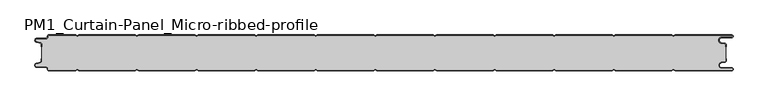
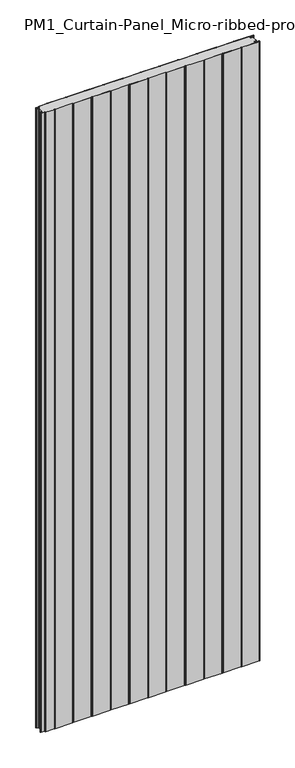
"""IFC4 building model written with IfcOpenShell, lengths in millimetres: plate geometry, PM1_Curtain-Panel_Micro-ribbed-profile : ACH_PM1_Stone-wool-Panel_60M."""

import ifcopenshell
import ifcopenshell.guid

model = None  # the IFC model being written
_history = None  # IfcOwnerHistory: only IFC2X3 demands one
_inside = {}  # id of a spatial element -> (the spatial element, [elements in it])
_under = {}  # id of a project, library or spatial element -> (it, [spatial elements below it])
_declared = {}  # id of a project -> (the project, [libraries it declares])
_typed = {}  # id of a type object -> (the type object, [elements of that type])
_made_of = {}  # id of a material, layer set ... -> (it, [elements and type objects made of it])


def new_model(schema):
    """Start an empty IFC model of exactly this schema.

    Asked for "IFC4X3", IfcOpenShell would pick the latest addendum, in which some entities
    have other attributes; the version numbers below select the first issue.
    IFC2X3 requires an IfcOwnerHistory on every rooted entity: one is made here for all.
    """
    global model, _history
    if schema == "IFC4X3":
        model = ifcopenshell.file(schema_version=(4, 3, 0, 0))
    else:
        model = ifcopenshell.file(schema=schema)
    _inside.clear()
    _under.clear()
    _declared.clear()
    _typed.clear()
    _made_of.clear()
    _history = None
    if model.schema == "IFC2X3":
        org = make("IfcOrganization", Name="unknown")
        user = make(
            "IfcPersonAndOrganization",
            ThePerson=make("IfcPerson", FamilyName="unknown"),
            TheOrganization=org,
        )
        app = make(
            "IfcApplication",
            ApplicationDeveloper=org,
            Version="unknown",
            ApplicationFullName="unknown",
            ApplicationIdentifier="unknown",
        )
        _history = make(
            "IfcOwnerHistory",
            OwningUser=user,
            OwningApplication=app,
            ChangeAction="ADDED",
            CreationDate=0,
        )
    return model


def make(cls, **values):
    """One entity of the class cls with the attributes given. An attribute that is None is left unset."""
    return model.create_entity(
        cls, **{name: value for name, value in values.items() if value is not None}
    )


def rooted(cls, **values):
    """An entity with a GlobalId (a new one), such as an element, a storey or a relation."""
    return make(cls, GlobalId=ifcopenshell.guid.new(), OwnerHistory=_history, **values)


def si_unit(unit_type, name, prefix=None):
    """IfcSIUnit, for example si_unit("LENGTHUNIT", "METRE", prefix="MILLI")."""
    return make("IfcSIUnit", UnitType=unit_type, Prefix=prefix, Name=name)


def assignment(units):
    """IfcUnitAssignment: the units of a project."""
    return None if units is None else make("IfcUnitAssignment", Units=units)


def point(xyz):
    """IfcCartesianPoint."""
    return None if xyz is None else make("IfcCartesianPoint", Coordinates=xyz)


def direction(xyz):
    """IfcDirection."""
    return None if xyz is None else make("IfcDirection", DirectionRatios=xyz)


def frame(location, z_axis=None, x_axis=None):
    """IfcAxis2Placement3D, a coordinate frame: its origin and axes. An axis left out is left unset."""
    return make(
        "IfcAxis2Placement3D",
        Location=point(location),
        Axis=direction(z_axis),
        RefDirection=direction(x_axis),
    )


def frame_2d(location, x_axis=None):
    """IfcAxis2Placement2D, a coordinate frame in the plane: its origin and x axis."""
    return make(
        "IfcAxis2Placement2D", Location=point(location), RefDirection=direction(x_axis)
    )


def origin():
    """The frame at (0, 0, 0) with its axes left unset."""
    return frame((0.0, 0.0, 0.0))


def origin_with_axes():
    """The frame at (0, 0, 0) with the z axis (0, 0, 1) and the x axis (1, 0, 0) written out."""
    return frame((0.0, 0.0, 0.0), z_axis=(0.0, 0.0, 1.0), x_axis=(1.0, 0.0, 0.0))


def place(relative_to, where):
    """IfcLocalPlacement: puts the frame where relative to a parent placement (None: the world)."""
    return make(
        "IfcLocalPlacement", PlacementRelTo=relative_to, RelativePlacement=where
    )


def context(
    kind, dimensions, precision=None, world=None, true_north=None, identifier=None
):
    """IfcGeometricRepresentationContext, for example the 3D "Model" context."""
    return make(
        "IfcGeometricRepresentationContext",
        ContextIdentifier=identifier,
        ContextType=kind,
        CoordinateSpaceDimension=dimensions,
        Precision=precision,
        WorldCoordinateSystem=world,
        TrueNorth=true_north,
    )


def project(units=None, contexts=None):
    """IfcProject with its units and contexts."""
    return rooted(
        "IfcProject",
        Name="project",
        RepresentationContexts=contexts,
        UnitsInContext=assignment(units),
    )


def spatial(cls, under=None, at=None, **own):
    """A site, building, storey or space (cls), placed at a placement, below another one or the project."""
    s = rooted(cls, ObjectPlacement=at, **own)
    if under is not None:
        _under.setdefault(under.id(), (under, []))[1].append(s)
    return s


def polyline(points):
    """IfcPolyline through the points."""
    return make("IfcPolyline", Points=[point(p) for p in points])


def circle_curve(where, radius):
    """IfcCircle in the frame where."""
    return make("IfcCircle", Position=where, Radius=radius)


def trimmed(basis, trim1, trim2, sense, master):
    """IfcTrimmedCurve: the piece of a basis curve between two trims."""
    return make(
        "IfcTrimmedCurve",
        BasisCurve=basis,
        Trim1=trim1,
        Trim2=trim2,
        SenseAgreement=sense,
        MasterRepresentation=master,
    )


def segment(curve, same_sense, transition):
    """IfcCompositeCurveSegment."""
    return make(
        "IfcCompositeCurveSegment",
        Transition=transition,
        SameSense=same_sense,
        ParentCurve=curve,
    )


def composite_curve(segments, self_intersect=None):
    """IfcCompositeCurve: segments joined end to end."""
    return make("IfcCompositeCurve", Segments=segments, SelfIntersect=self_intersect)


def outline(outer, holes=None, kind="AREA"):
    """IfcArbitraryClosedProfileDef: a profile drawn as a closed curve; with holes, ...WithVoids."""
    if holes is None:
        return make("IfcArbitraryClosedProfileDef", ProfileType=kind, OuterCurve=outer)
    return make(
        "IfcArbitraryProfileDefWithVoids",
        ProfileType=kind,
        OuterCurve=outer,
        InnerCurves=holes,
    )


def extrude(swept, where, along, depth):
    """IfcExtrudedAreaSolid: the profile swept, set in the frame where, extruded along a direction by depth."""
    return make(
        "IfcExtrudedAreaSolid",
        SweptArea=swept,
        Position=where,
        ExtrudedDirection=direction(along),
        Depth=depth,
    )


def shape(context_of_items, identifier, shape_type, items):
    """IfcShapeRepresentation: the items that make up one representation, for example the "Body"."""
    return make(
        "IfcShapeRepresentation",
        ContextOfItems=context_of_items,
        RepresentationIdentifier=identifier,
        RepresentationType=shape_type,
        Items=items,
    )


def source(mapping_origin, context_of_items, identifier, shape_type, items):
    """IfcRepresentationMap: a shape defined once, which mapped items show again and again."""
    return make(
        "IfcRepresentationMap",
        MappingOrigin=mapping_origin,
        MappedRepresentation=shape(context_of_items, identifier, shape_type, items),
    )


def transform(
    local_origin,
    x_axis=None,
    y_axis=None,
    z_axis=None,
    scale=None,
    scale2=None,
    scale3=None,
    uniform=True,
):
    """IfcCartesianTransformationOperator3D, or its non-uniform kind. x_axis, y_axis, z_axis: its Axis1, 2, 3."""
    if uniform:
        return make(
            "IfcCartesianTransformationOperator3D",
            Axis1=direction(x_axis),
            Axis2=direction(y_axis),
            LocalOrigin=point(local_origin),
            Scale=scale,
            Axis3=direction(z_axis),
        )
    return make(
        "IfcCartesianTransformationOperator3DnonUniform",
        Axis1=direction(x_axis),
        Axis2=direction(y_axis),
        LocalOrigin=point(local_origin),
        Scale=scale,
        Axis3=direction(z_axis),
        Scale2=scale2,
        Scale3=scale3,
    )


def mapped(mapping_source, mapping_target):
    """IfcMappedItem: shows the shape of a source again, moved by a transform."""
    return make(
        "IfcMappedItem", MappingSource=mapping_source, MappingTarget=mapping_target
    )


def made_of(thing, what):
    """Note that an element or type object is made of a material, layer set ...; save() writes the relation."""
    if what is not None:
        _made_of.setdefault(what.id(), (what, []))[1].append(thing)
    return thing


def element(
    cls,
    number,
    at=None,
    inside=None,
    cuts=None,
    type_object=None,
    material=None,
    context=None,
    identifier="Body",
    shape_type=None,
    held_by="IfcProductDefinitionShape",
    body=None,
    shapes=None,
    **own,
):
    """One element of the class cls, such as IfcWall. Its Tag is "e" and its number.

    at: its placement. inside: the storey or other place that contains it. cuts: it is an
    opening in that element (IfcRelVoidsElement). A single representation is given by context,
    identifier, shape_type and body (its items); several are given by shapes. held_by: the class
    of the entity that holds the representations. save() writes the other relations.
    """
    e = rooted(cls, Tag="e%d" % number, ObjectPlacement=at, **own)
    if body is not None:
        shapes = [shape(context, identifier, shape_type, body)]
    if shapes is not None:
        e.Representation = make(held_by, Representations=shapes)
    if inside is not None:
        _inside.setdefault(inside.id(), (inside, []))[1].append(e)
    if cuts is not None:
        rooted(
            "IfcRelVoidsElement", RelatingBuildingElement=cuts, RelatedOpeningElement=e
        )
    if type_object is not None:
        _typed.setdefault(type_object.id(), (type_object, []))[1].append(e)
    return made_of(e, material)


def aggregate(whole, parts):
    """IfcRelAggregates: a whole, such as a stair, and the parts it consists of."""
    return rooted("IfcRelAggregates", RelatingObject=whole, RelatedObjects=parts)


def save(model, path):
    """Write the relations noted so far, then the file.

    IfcRelAggregates (storeys below a building ...), IfcRelContainedInSpatialStructure (elements
    in a storey), IfcRelDefinesByType, IfcRelAssociatesMaterial and IfcRelDeclares: one each for
    every whole, place, type object, material and project.
    """
    for whole, parts in _under.values():
        aggregate(whole, parts)
    for where, things in _inside.values():
        rooted(
            "IfcRelContainedInSpatialStructure",
            RelatedElements=things,
            RelatingStructure=where,
        )
    for kind, things in _typed.values():
        rooted("IfcRelDefinesByType", RelatedObjects=things, RelatingType=kind)
    for what, things in _made_of.values():
        rooted("IfcRelAssociatesMaterial", RelatedObjects=things, RelatingMaterial=what)
    for by, libraries in _declared.values():
        rooted("IfcRelDeclares", RelatingContext=by, RelatedDefinitions=libraries)
    model.write(path)


def pm1_curtain_panel_micro_ribbed_profile_8efd6a00(model_context):
    return source(origin(), model_context, "Body", "SweptSolid", [
        extrude(outline(composite_curve([segment(trimmed(circle_curve(frame_2d((-577.0, -15.878557)), 2.0), [point((-575.0, -15.878557))], [point((-576.5500978, -13.9298169))], True, "CARTESIAN"), True, "CONTINUOUS"), segment(polyline([(-576.5500978, -13.9298169), (-582.7098239, -12.507732)]), True, "CONTINUOUS"), segment(trimmed(circle_curve(frame_2d((-581.9, -9.0)), 3.6), [point((-582.7098239, -12.507732))], [point((-581.9, -5.4))], False, "CARTESIAN"), True, "CONTINUOUS"), segment(polyline([(-581.9, -5.4), (-566.4, -5.4)]), True, "CONTINUOUS"), segment(trimmed(circle_curve(frame_2d((-566.4, -3.4)), 2.0), [point((-566.4, -5.4))], [point((-564.4, -3.4))], True, "CARTESIAN"), True, "CONTINUOUS"), segment(polyline([(-564.4, -3.4), (-564.4, -2.0)]), True, "CONTINUOUS"), segment(trimmed(circle_curve(frame_2d((-562.4, -2.0)), 2.0), [point((-564.4, -2.0))], [point((-562.4, 0.0))], False, "CARTESIAN"), True, "CONTINUOUS"), segment(polyline([(-562.4, 0.0), (-517.0999995, 0.0), (-514.4, -1.5588455), (-511.7000005, 0.0), (-417.0999995, 0.0), (-414.4, -1.5588455), (-411.7000005, 0.0), (-317.0999995, 0.0), (-314.4, -1.5588455), (-311.7000005, 0.0), (-217.0999995, 0.0), (-214.4, -1.5588455), (-211.7000005, 0.0), (-117.0999995, 0.0), (-114.4, -1.5588455), (-111.7000005, 0.0), (-17.0999995, 0.0), (-14.4, -1.5588455), (-11.7000005, 0.0), (82.9000005, 0.0), (85.6, -1.5588455), (88.2999995, 0.0), (182.9000005, 0.0), (185.6, -1.5588455), (188.2999995, 0.0), (282.9000005, 0.0), (285.6, -1.5588455), (288.2999995, 0.0), (382.9000005, 0.0), (385.6, -1.5588455), (388.2999995, 0.0), (482.9000005, 0.0), (485.6, -1.5588455), (488.2999995, 0.0), (583.1, 0.0)]), True, "CONTINUOUS"), segment(trimmed(circle_curve(frame_2d((583.1, -2.5)), 2.5), [point((583.1, 0.0))], [point((583.1, -5.0))], False, "CARTESIAN"), True, "CONTINUOUS"), segment(polyline([(583.1, -5.0), (566.1, -5.0)]), True, "CONTINUOUS"), segment(trimmed(circle_curve(frame_2d((566.1, -9.0)), 4.0), [point((566.1, -5.0))], [point((565.405407, -12.939231))], True, "CARTESIAN"), True, "CONTINUOUS"), segment(polyline([(565.405407, -12.939231), (571.8514855, -14.0758491)]), True, "CONTINUOUS"), segment(trimmed(circle_curve(frame_2d((571.4, -16.6363492)), 2.6), [point((571.8514855, -14.0758491))], [point((574.0, -16.6363492))], False, "CARTESIAN"), True, "CONTINUOUS"), segment(polyline([(574.0, -16.6363492), (574.0, -20.0), (573.2, -20.0), (573.2, -16.6363492)]), True, "CONTINUOUS"), segment(trimmed(circle_curve(frame_2d((571.4, -16.6363492)), 1.8), [point((573.2, -16.6363492))], [point((571.7125669, -14.8636953))], True, "CARTESIAN"), True, "CONTINUOUS"), segment(polyline([(571.7125669, -14.8636953), (565.2664884, -13.7270772)]), True, "CONTINUOUS"), segment(trimmed(circle_curve(frame_2d((566.1, -9.0)), 4.8), [point((565.2664884, -13.7270772))], [point((566.1, -4.2))], False, "CARTESIAN"), True, "CONTINUOUS"), segment(polyline([(566.1, -4.2), (583.1, -4.2)]), True, "CONTINUOUS"), segment(trimmed(circle_curve(frame_2d((583.1, -2.5)), 1.7), [point((583.1, -4.2))], [point((583.1, -0.8))], True, "CARTESIAN"), True, "CONTINUOUS"), segment(polyline([(583.1, -0.8), (488.5143588, -0.8), (485.6, -2.482606), (482.6856412, -0.8), (388.5143588, -0.8), (385.6, -2.482606), (382.6856412, -0.8), (288.5143588, -0.8), (285.6, -2.482606), (282.6856412, -0.8), (188.5143588, -0.8), (185.6, -2.482606), (182.6856412, -0.8), (88.5143588, -0.8), (85.6, -2.482606), (82.6856412, -0.8), (-11.4856412, -0.8), (-14.4, -2.482606), (-17.3143588, -0.8), (-111.4856412, -0.8), (-114.4, -2.482606), (-117.3143588, -0.8), (-211.4856412, -0.8), (-214.4, -2.482606), (-217.3143588, -0.8), (-311.4856412, -0.8), (-314.4, -2.482606), (-317.3143588, -0.8), (-411.4856412, -0.8), (-414.4, -2.482606), (-417.3143588, -0.8), (-511.4856412, -0.8), (-514.4, -2.482606), (-517.3143588, -0.8), (-562.4, -0.8)]), True, "CONTINUOUS"), segment(trimmed(circle_curve(frame_2d((-562.4, -2.0)), 1.2), [point((-562.4, -0.8))], [point((-563.6, -2.0))], True, "CARTESIAN"), True, "CONTINUOUS"), segment(polyline([(-563.6, -2.0), (-563.6, -3.4)]), True, "CONTINUOUS"), segment(trimmed(circle_curve(frame_2d((-566.4, -3.4)), 2.8), [point((-563.6, -3.4))], [point((-566.4, -6.2))], False, "CARTESIAN"), True, "CONTINUOUS"), segment(polyline([(-566.4, -6.2), (-581.9, -6.2)]), True, "CONTINUOUS"), segment(trimmed(circle_curve(frame_2d((-581.9, -9.0)), 2.8), [point((-581.9, -6.2))], [point((-582.529863, -11.7282362))], True, "CARTESIAN"), True, "CONTINUOUS"), segment(polyline([(-582.529863, -11.7282362), (-576.370137, -13.150321)]), True, "CONTINUOUS"), segment(trimmed(circle_curve(frame_2d((-577.0, -15.878557)), 2.8), [point((-576.370137, -13.150321))], [point((-574.2, -15.878557))], False, "CARTESIAN"), True, "CONTINUOUS"), segment(polyline([(-574.2, -15.878557), (-574.2, -20.0), (-575.0, -20.0), (-575.0, -15.878557)]), True, "CONTINUOUS")], self_intersect=False)), origin_with_axes(), (0.0, 0.0, 1.0), 3500.0),
        extrude(outline(composite_curve([segment(polyline([(-574.2, -44.1214426), (-574.2, -15.8785573)]), True, "CONTINUOUS"), segment(trimmed(circle_curve(frame_2d((-577.0, -15.8785573)), 2.8), [point((-574.2, -15.8785573))], [point((-576.370137, -13.1503212))], True, "CARTESIAN"), True, "CONTINUOUS"), segment(polyline([(-576.370137, -13.1503212), (-582.5298631, -11.7282362)]), True, "CONTINUOUS"), segment(trimmed(circle_curve(frame_2d((-581.9, -9.0)), 2.8), [point((-582.5298631, -11.7282362))], [point((-581.9, -6.2))], False, "CARTESIAN"), True, "CONTINUOUS"), segment(polyline([(-581.9, -6.2), (-566.4000001, -6.2)]), True, "CONTINUOUS"), segment(trimmed(circle_curve(frame_2d((-566.4000001, -3.4)), 2.8), [point((-566.4000001, -6.2))], [point((-563.6000001, -3.4))], True, "CARTESIAN"), True, "CONTINUOUS"), segment(polyline([(-563.6000001, -3.4), (-563.6000001, -2.0)]), True, "CONTINUOUS"), segment(trimmed(circle_curve(frame_2d((-562.4000001, -2.0)), 1.2), [point((-563.6000001, -2.0))], [point((-562.4000001, -0.8))], False, "CARTESIAN"), True, "CONTINUOUS"), segment(polyline([(-562.4000001, -0.8), (-517.3143589, -0.8), (-514.4000001, -2.482606), (-511.4856412, -0.8), (-417.3143589, -0.8), (-414.4000001, -2.482606), (-411.4856412, -0.8), (-317.3143589, -0.8), (-314.4000001, -2.482606), (-311.4856412, -0.8), (-217.3143589, -0.8), (-214.4000001, -2.482606), (-211.4856412, -0.8), (-117.3143589, -0.8), (-114.4000001, -2.482606), (-111.4856412, -0.8), (-17.3143589, -0.8), (-14.4000001, -2.482606), (-11.4856412, -0.8), (82.6856411, -0.8), (85.5999999, -2.482606), (88.5143588, -0.8), (182.6856411, -0.8), (185.5999999, -2.482606), (188.5143588, -0.8), (282.6856411, -0.8), (285.5999999, -2.482606), (288.5143588, -0.8), (382.6856411, -0.8), (385.5999999, -2.482606), (388.5143588, -0.8), (482.6856411, -0.8), (485.6, -2.482606), (488.5143588, -0.8), (583.1, -0.8)]), True, "CONTINUOUS"), segment(trimmed(circle_curve(frame_2d((583.1, -2.5)), 1.7), [point((583.1, -0.8))], [point((583.1, -4.2))], False, "CARTESIAN"), True, "CONTINUOUS"), segment(polyline([(583.1, -4.2), (566.1, -4.2)]), True, "CONTINUOUS"), segment(trimmed(circle_curve(frame_2d((566.1, -9.0)), 4.8), [point((566.1, -4.2))], [point((565.2664883, -13.7270771))], True, "CARTESIAN"), True, "CONTINUOUS"), segment(polyline([(565.2664883, -13.7270771), (571.7125668, -14.8636953)]), True, "CONTINUOUS"), segment(trimmed(circle_curve(frame_2d((571.4, -16.6363492)), 1.8), [point((571.7125668, -14.8636953))], [point((573.2, -16.6363492))], False, "CARTESIAN"), True, "CONTINUOUS"), segment(polyline([(573.2, -16.6363492), (573.2, -43.3636508)]), True, "CONTINUOUS"), segment(trimmed(circle_curve(frame_2d((571.4, -43.3636508)), 1.8), [point((573.2, -43.3636508))], [point((571.7125668, -45.1363047))], False, "CARTESIAN"), True, "CONTINUOUS"), segment(polyline([(571.7125668, -45.1363047), (565.2664883, -46.2729229)]), True, "CONTINUOUS"), segment(trimmed(circle_curve(frame_2d((566.1, -51.0)), 4.8), [point((565.2664883, -46.2729229))], [point((566.1, -55.8))], True, "CARTESIAN"), True, "CONTINUOUS"), segment(polyline([(566.1, -55.8), (583.1, -55.8)]), True, "CONTINUOUS"), segment(trimmed(circle_curve(frame_2d((583.1, -57.5)), 1.7), [point((583.1, -55.8))], [point((583.1, -59.2))], False, "CARTESIAN"), True, "CONTINUOUS"), segment(polyline([(583.1, -59.2), (488.5143588, -59.2), (485.6, -57.517394), (482.6856411, -59.2), (388.5143588, -59.2), (385.5999999, -57.517394), (382.6856411, -59.2), (288.5143588, -59.2), (285.5999999, -57.517394), (282.6856411, -59.2), (188.5143588, -59.2), (185.5999999, -57.517394), (182.6856411, -59.2), (88.5143588, -59.2), (85.5999999, -57.517394), (82.6856411, -59.2), (-11.4856412, -59.2), (-14.4000001, -57.517394), (-17.3143589, -59.2), (-111.4856412, -59.2), (-114.4000001, -57.517394), (-117.3143589, -59.2), (-211.4856412, -59.2), (-214.4000001, -57.517394), (-217.3143589, -59.2), (-311.4856412, -59.2), (-314.4000001, -57.517394), (-317.3143589, -59.2), (-411.4856412, -59.2), (-414.4000001, -57.517394), (-417.3143589, -59.2), (-511.4856412, -59.2), (-514.4000001, -57.517394), (-517.3143589, -59.2), (-562.4000001, -59.2)]), True, "CONTINUOUS"), segment(trimmed(circle_curve(frame_2d((-562.4000001, -58.0)), 1.2), [point((-562.4000001, -59.2))], [point((-563.6000001, -58.0))], False, "CARTESIAN"), True, "CONTINUOUS"), segment(polyline([(-563.6000001, -58.0), (-563.6000001, -56.6)]), True, "CONTINUOUS"), segment(trimmed(circle_curve(frame_2d((-566.4000001, -56.6)), 2.8), [point((-563.6000001, -56.6))], [point((-566.4000001, -53.8))], True, "CARTESIAN"), True, "CONTINUOUS"), segment(polyline([(-566.4000001, -53.8), (-581.9, -53.8)]), True, "CONTINUOUS"), segment(trimmed(circle_curve(frame_2d((-581.9, -51.0)), 2.8), [point((-581.9, -53.8))], [point((-582.5298631, -48.2717638))], False, "CARTESIAN"), True, "CONTINUOUS"), segment(polyline([(-582.5298631, -48.2717638), (-576.370137, -46.8496788)]), True, "CONTINUOUS"), segment(trimmed(circle_curve(frame_2d((-577.0, -44.1214426)), 2.8), [point((-576.370137, -46.8496788))], [point((-574.2, -44.1214426))], True, "CARTESIAN"), True, "CONTINUOUS")], self_intersect=False)), origin_with_axes(), (0.0, 0.0, 1.0), 3500.0),
        extrude(outline(composite_curve([segment(polyline([(-575.0, -44.121443), (-575.0, -40.0), (-574.2, -40.0), (-574.2, -44.121443)]), True, "CONTINUOUS"), segment(trimmed(circle_curve(frame_2d((-577.0, -44.121443)), 2.8), [point((-574.2, -44.121443))], [point((-576.370137, -46.8496792))], False, "CARTESIAN"), True, "CONTINUOUS"), segment(polyline([(-576.370137, -46.8496792), (-582.529863, -48.271764)]), True, "CONTINUOUS"), segment(trimmed(circle_curve(frame_2d((-581.9, -51.0)), 2.8), [point((-582.529863, -48.271764))], [point((-581.9, -53.8))], True, "CARTESIAN"), True, "CONTINUOUS"), segment(polyline([(-581.9, -53.8), (-566.4, -53.8)]), True, "CONTINUOUS"), segment(trimmed(circle_curve(frame_2d((-566.4, -56.6)), 2.8), [point((-566.4, -53.8))], [point((-563.6, -56.6))], False, "CARTESIAN"), True, "CONTINUOUS"), segment(polyline([(-563.6, -56.6), (-563.6, -58.0)]), True, "CONTINUOUS"), segment(trimmed(circle_curve(frame_2d((-562.4, -58.0)), 1.2), [point((-563.6, -58.0))], [point((-562.4, -59.2))], True, "CARTESIAN"), True, "CONTINUOUS"), segment(polyline([(-562.4, -59.2), (-517.3143588, -59.2), (-514.4, -57.517394), (-511.4856412, -59.2), (-417.3143588, -59.2), (-414.4, -57.517394), (-411.4856412, -59.2), (-317.3143588, -59.2), (-314.4, -57.517394), (-311.4856412, -59.2), (-217.3143588, -59.2), (-214.4, -57.517394), (-211.4856412, -59.2), (-117.3143588, -59.2), (-114.4, -57.517394), (-111.4856412, -59.2), (-17.3143588, -59.2), (-14.4, -57.517394), (-11.4856412, -59.2), (82.6856412, -59.2), (85.6, -57.517394), (88.5143588, -59.2), (182.6856412, -59.2), (185.6, -57.517394), (188.5143588, -59.2), (282.6856412, -59.2), (285.6, -57.517394), (288.5143588, -59.2), (382.6856412, -59.2), (385.6, -57.517394), (388.5143588, -59.2), (482.6856412, -59.2), (485.6, -57.517394), (488.5143588, -59.2), (583.1, -59.2)]), True, "CONTINUOUS"), segment(trimmed(circle_curve(frame_2d((583.1, -57.5)), 1.7), [point((583.1, -59.2))], [point((583.1, -55.8))], True, "CARTESIAN"), True, "CONTINUOUS"), segment(polyline([(583.1, -55.8), (566.1, -55.8)]), True, "CONTINUOUS"), segment(trimmed(circle_curve(frame_2d((566.1, -51.0)), 4.8), [point((566.1, -55.8))], [point((565.2664884, -46.2729229))], False, "CARTESIAN"), True, "CONTINUOUS"), segment(polyline([(565.2664884, -46.2729229), (571.7125669, -45.1363047)]), True, "CONTINUOUS"), segment(trimmed(circle_curve(frame_2d((571.4, -43.3636508)), 1.8), [point((571.7125669, -45.1363047))], [point((573.2, -43.3636508))], True, "CARTESIAN"), True, "CONTINUOUS"), segment(polyline([(573.2, -43.3636508), (573.2, -40.0), (574.0, -40.0), (574.0, -43.3636508)]), True, "CONTINUOUS"), segment(trimmed(circle_curve(frame_2d((571.4, -43.3636508)), 2.6), [point((574.0, -43.3636508))], [point((571.8514855, -45.9241509))], False, "CARTESIAN"), True, "CONTINUOUS"), segment(polyline([(571.8514855, -45.9241509), (565.405407, -47.060769)]), True, "CONTINUOUS"), segment(trimmed(circle_curve(frame_2d((566.1, -51.0)), 4.0), [point((565.405407, -47.060769))], [point((566.1, -55.0))], True, "CARTESIAN"), True, "CONTINUOUS"), segment(polyline([(566.1, -55.0), (583.1, -55.0)]), True, "CONTINUOUS"), segment(trimmed(circle_curve(frame_2d((583.1, -57.5)), 2.5), [point((583.1, -55.0))], [point((583.1, -60.0))], False, "CARTESIAN"), True, "CONTINUOUS"), segment(polyline([(583.1, -60.0), (488.2999995, -60.0), (485.6, -58.4411545), (482.9000005, -60.0), (388.2999995, -60.0), (385.6, -58.4411545), (382.9000005, -60.0), (288.2999995, -60.0), (285.6, -58.4411545), (282.9000005, -60.0), (188.2999995, -60.0), (185.6, -58.4411545), (182.9000005, -60.0), (88.2999995, -60.0), (85.6, -58.4411545), (82.9000005, -60.0), (-11.7000005, -60.0), (-14.4, -58.4411545), (-17.0999995, -60.0), (-111.7000005, -60.0), (-114.4, -58.4411545), (-117.0999995, -60.0), (-211.7000005, -60.0), (-214.4, -58.4411545), (-217.0999995, -60.0), (-311.7000005, -60.0), (-314.4, -58.4411545), (-317.0999995, -60.0), (-411.7000005, -60.0), (-414.4, -58.4411545), (-417.0999995, -60.0), (-511.7000005, -60.0), (-514.4, -58.4411545), (-517.0999995, -60.0), (-562.4, -60.0)]), True, "CONTINUOUS"), segment(trimmed(circle_curve(frame_2d((-562.4, -58.0)), 2.0), [point((-562.4, -60.0))], [point((-564.4, -58.0))], False, "CARTESIAN"), True, "CONTINUOUS"), segment(polyline([(-564.4, -58.0), (-564.4, -56.6)]), True, "CONTINUOUS"), segment(trimmed(circle_curve(frame_2d((-566.4, -56.6)), 2.0), [point((-564.4, -56.6))], [point((-566.4, -54.6))], True, "CARTESIAN"), True, "CONTINUOUS"), segment(polyline([(-566.4, -54.6), (-581.9, -54.6)]), True, "CONTINUOUS"), segment(trimmed(circle_curve(frame_2d((-581.9, -51.0)), 3.6), [point((-581.9, -54.6))], [point((-582.7098239, -47.4922678))], False, "CARTESIAN"), True, "CONTINUOUS"), segment(polyline([(-582.7098239, -47.4922678), (-576.5500979, -46.070183)]), True, "CONTINUOUS"), segment(trimmed(circle_curve(frame_2d((-577.0, -44.121443)), 2.0), [point((-576.5500979, -46.070183))], [point((-575.0, -44.121443))], True, "CARTESIAN"), True, "CONTINUOUS")], self_intersect=False)), origin_with_axes(), (0.0, 0.0, 1.0), 3500.0),
    ])


if __name__ == "__main__":
    model = new_model("IFC4")
    model_context = context("Model", 3, world=origin())
    ifc_project = project(units=[si_unit("LENGTHUNIT", "METRE", prefix="MILLI")], contexts=[model_context])
    site = spatial("IfcSite", under=ifc_project)
    building = spatial("IfcBuilding", under=site)
    placement = place(None, origin())
    pm1_curtain_panel_micro_ribbed_profile_shape = pm1_curtain_panel_micro_ribbed_profile_8efd6a00(model_context)
    element("IfcPlate", 1, ObjectType="PM1_Curtain-Panel_Micro-ribbed-profile : ACH_PM1_Stone-wool-Panel_60M", at=placement, inside=building, context=model_context, shape_type="MappedRepresentation", body=[
        mapped(pm1_curtain_panel_micro_ribbed_profile_shape, transform((0.0, 0.0, 0.0), x_axis=(1.0, 0.0, 0.0), y_axis=(0.0, 1.0, 0.0), z_axis=(0.0, 0.0, 1.0))),
    ])
    save(model, "model.ifc")
